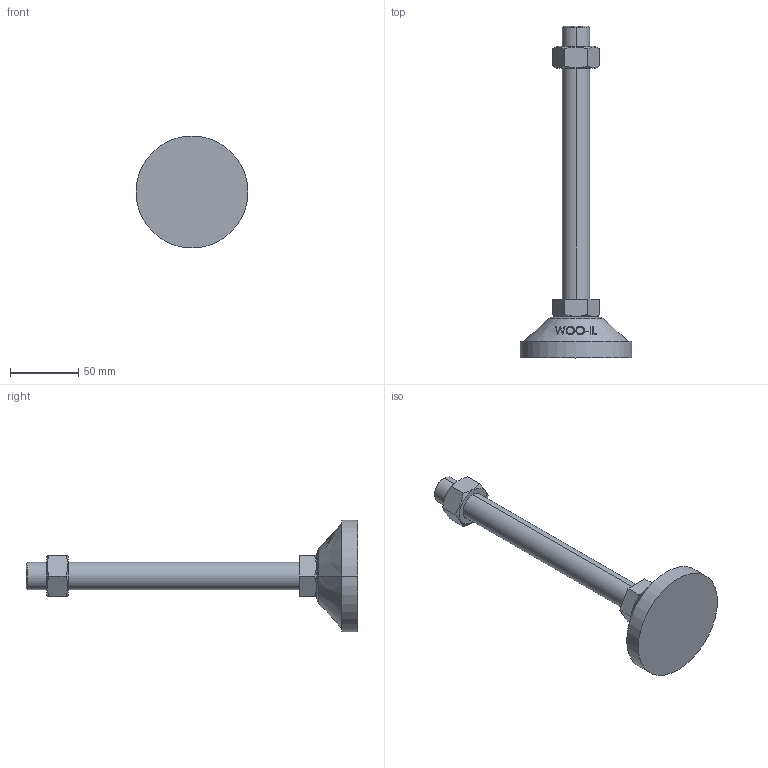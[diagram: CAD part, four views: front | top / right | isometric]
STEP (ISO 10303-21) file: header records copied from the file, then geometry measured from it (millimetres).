
FILE_DESCRIPTION (( 'STEP AP214' ), '1' );
FILE_NAME ('RL82-M20-200.step', '2021-01-06T08:18:53', ( '' ), ( '' ), 'SwSTEP 2.0', 'SolidWorks 2019', '' );
FILE_SCHEMA (( 'AUTOMOTIVE_DESIGN' ));
Length unit declared in the file: millimetre
Products named in the file (1): RL82-M20-200
Bounding box: 82 x 243 x 82 mm (x, y, z)
Volume: 191043.9 mm3; surface area: 33712.5 mm2
Topology: 3 solids, 3 shells, 93 faces, 221 edges, 144 vertices
Faces by surface type: plane 47, cone 22, bspline 16, cylinder 6, torus 2
Entity records: 4267 total; most frequent: CARTESIAN_POINT 2215, ORIENTED_EDGE 442, DIRECTION 349, EDGE_CURVE 221, VERTEX_POINT 144, AXIS2_PLACEMENT_3D 134, EDGE_LOOP 105, FACE_OUTER_BOUND 93
